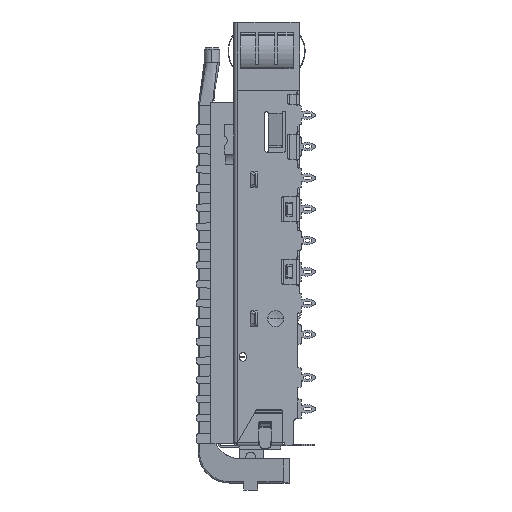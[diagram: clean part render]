
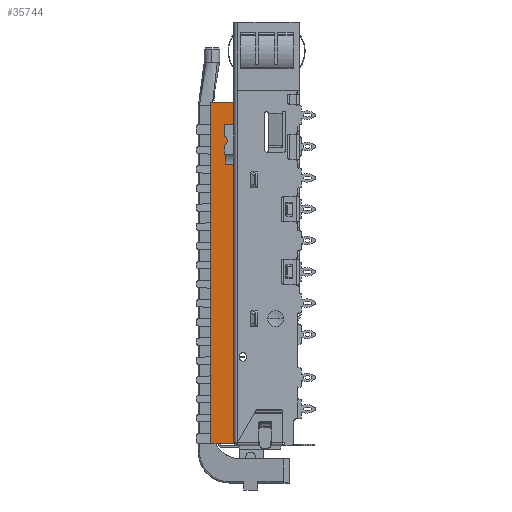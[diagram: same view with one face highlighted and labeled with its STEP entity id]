
A CAD part, left-side view. The second image highlights one B-rep face of the part: STEP entity #35744.
In plain terms, the highlighted planar face has unit normal (-1, 0, 0).
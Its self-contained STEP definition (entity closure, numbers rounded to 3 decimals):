
#1224 = CARTESIAN_POINT ( 'NONE',  ( -9.225, 1.45, -19.328 ) ) ;
#4193 = VERTEX_POINT ( 'NONE', #22366 ) ;
#4428 = CARTESIAN_POINT ( 'NONE',  ( -9.225, -0.01, 30.211 ) ) ;
#5185 = CIRCLE ( 'NONE', #13359, 0.3 ) ;
#5334 = EDGE_CURVE ( 'NONE', #57013, #68491, #49041, .T. ) ;
#7512 = VECTOR ( 'NONE', #25607, 1000. ) ;
#8027 = CARTESIAN_POINT ( 'NONE',  ( -9.225, -0.01, -60.415 ) ) ;
#8624 = VERTEX_POINT ( 'NONE', #70072 ) ;
#8716 = CARTESIAN_POINT ( 'NONE',  ( -9.225, 0., -20.48 ) ) ;
#9135 = EDGE_CURVE ( 'NONE', #57013, #24176, #24763, .T. ) ;
#10330 = CIRCLE ( 'NONE', #37205, 0.3 ) ;
#11804 = ORIENTED_EDGE ( 'NONE', *, *, #21976, .F. ) ;
#13359 = AXIS2_PLACEMENT_3D ( 'NONE', #57766, #79609, #86204 ) ;
#13598 = EDGE_CURVE ( 'NONE', #24242, #4193, #44075, .T. ) ;
#14418 = ORIENTED_EDGE ( 'NONE', *, *, #9135, .F. ) ;
#14516 = DIRECTION ( 'NONE',  ( 0., -1., 0. ) ) ;
#14604 = LINE ( 'NONE', #70283, #31474 ) ;
#15499 = LINE ( 'NONE', #79662, #27886 ) ;
#16570 = CARTESIAN_POINT ( 'NONE',  ( -9.225, -1.1, -20.48 ) ) ;
#16699 = PLANE ( 'NONE',  #83464 ) ;
#16969 = EDGE_CURVE ( 'NONE', #27422, #78319, #15499, .T. ) ;
#16983 = ORIENTED_EDGE ( 'NONE', *, *, #66647, .F. ) ;
#17281 = EDGE_CURVE ( 'NONE', #84271, #24242, #84892, .T. ) ;
#18973 = DIRECTION ( 'NONE',  ( 0., 0., -1. ) ) ;
#21360 = EDGE_CURVE ( 'NONE', #8624, #52351, #14604, .T. ) ;
#21976 = EDGE_CURVE ( 'NONE', #24176, #31274, #38527, .T. ) ;
#22366 = CARTESIAN_POINT ( 'NONE',  ( -9.225, 3.311, -11.505 ) ) ;
#24176 = VERTEX_POINT ( 'NONE', #87079 ) ;
#24242 = VERTEX_POINT ( 'NONE', #65787 ) ;
#24431 = VECTOR ( 'NONE', #61529, 1000. ) ;
#24763 = LINE ( 'NONE', #25440, #82982 ) ;
#24834 = CARTESIAN_POINT ( 'NONE',  ( -9.225, 1.15, -60.6 ) ) ;
#25440 = CARTESIAN_POINT ( 'NONE',  ( -9.225, -1.1, -14.75 ) ) ;
#25473 = ORIENTED_EDGE ( 'NONE', *, *, #68508, .F. ) ;
#25607 = DIRECTION ( 'NONE',  ( 0., 0., -1. ) ) ;
#27014 = CARTESIAN_POINT ( 'NONE',  ( -9.225, 1.15, -20.272 ) ) ;
#27422 = VERTEX_POINT ( 'NONE', #57801 ) ;
#27886 = VECTOR ( 'NONE', #14516, 1000. ) ;
#31021 = VERTEX_POINT ( 'NONE', #36768 ) ;
#31274 = VERTEX_POINT ( 'NONE', #47052 ) ;
#31474 = VECTOR ( 'NONE', #76834, 1000. ) ;
#32365 = DIRECTION ( 'NONE',  ( 0., 0., -1. ) ) ;
#35348 = ORIENTED_EDGE ( 'NONE', *, *, #21360, .F. ) ;
#35744 = ADVANCED_FACE ( 'NONE', ( #88792, #62056 ), #16699, .F. ) ;
#36265 = VECTOR ( 'NONE', #92761, 1000. ) ;
#36768 = CARTESIAN_POINT ( 'NONE',  ( -9.225, -0.25, -60.415 ) ) ;
#37205 = AXIS2_PLACEMENT_3D ( 'NONE', #1224, #45428, #66674 ) ;
#38380 = VERTEX_POINT ( 'NONE', #81651 ) ;
#38527 = LINE ( 'NONE', #56730, #36265 ) ;
#38848 = DIRECTION ( 'NONE',  ( 0., -1., 0. ) ) ;
#38955 = ORIENTED_EDGE ( 'NONE', *, *, #46942, .F. ) ;
#39568 = VECTOR ( 'NONE', #61912, 1000. ) ;
#39596 = CARTESIAN_POINT ( 'NONE',  ( -9.225, 1.15, -19.328 ) ) ;
#40087 = EDGE_CURVE ( 'NONE', #4193, #27422, #81335, .T. ) ;
#40463 = EDGE_CURVE ( 'NONE', #68491, #38380, #88030, .T. ) ;
#40565 = ORIENTED_EDGE ( 'NONE', *, *, #50573, .T. ) ;
#43601 = ORIENTED_EDGE ( 'NONE', *, *, #90214, .F. ) ;
#44075 = LINE ( 'NONE', #75932, #39568 ) ;
#45302 = VECTOR ( 'NONE', #38848, 1000. ) ;
#45428 = DIRECTION ( 'NONE',  ( 1., 0., 0. ) ) ;
#46625 = LINE ( 'NONE', #24834, #90285 ) ;
#46942 = EDGE_CURVE ( 'NONE', #31274, #8624, #52688, .T. ) ;
#47052 = CARTESIAN_POINT ( 'NONE',  ( -9.225, 1.4, -16.355 ) ) ;
#49041 = LINE ( 'NONE', #74426, #7512 ) ;
#50133 = VERTEX_POINT ( 'NONE', #27014 ) ;
#50573 = EDGE_CURVE ( 'NONE', #78319, #31021, #52603, .T. ) ;
#52351 = VERTEX_POINT ( 'NONE', #63319 ) ;
#52501 = CARTESIAN_POINT ( 'NONE',  ( -9.225, -1.1, -60.6 ) ) ;
#52603 = LINE ( 'NONE', #53558, #56980 ) ;
#52688 = CIRCLE ( 'NONE', #75145, 0.765 ) ;
#52799 = DIRECTION ( 'NONE',  ( 0., 0., -1. ) ) ;
#53558 = CARTESIAN_POINT ( 'NONE',  ( -9.225, -0.25, -11.505 ) ) ;
#53772 = ORIENTED_EDGE ( 'NONE', *, *, #17281, .T. ) ;
#54869 = DIRECTION ( 'NONE',  ( 0., 1., 0. ) ) ;
#56569 = EDGE_LOOP ( 'NONE', ( #65596, #53772, #63976, #58061, #58827, #40565 ) ) ;
#56730 = CARTESIAN_POINT ( 'NONE',  ( -9.225, 1.4, -60.6 ) ) ;
#56980 = VECTOR ( 'NONE', #75714, 1000. ) ;
#57013 = VERTEX_POINT ( 'NONE', #77991 ) ;
#57766 = CARTESIAN_POINT ( 'NONE',  ( -9.225, 1.45, -20.272 ) ) ;
#57801 = CARTESIAN_POINT ( 'NONE',  ( -9.225, 3.311, -60.6 ) ) ;
#58061 = ORIENTED_EDGE ( 'NONE', *, *, #40087, .T. ) ;
#58772 = LINE ( 'NONE', #66021, #45302 ) ;
#58827 = ORIENTED_EDGE ( 'NONE', *, *, #16969, .T. ) ;
#61529 = DIRECTION ( 'NONE',  ( 0., 0., 1. ) ) ;
#61912 = DIRECTION ( 'NONE',  ( 0., 1., 0. ) ) ;
#62056 = FACE_OUTER_BOUND ( 'NONE', #56569, .T. ) ;
#63319 = CARTESIAN_POINT ( 'NONE',  ( -9.225, 1.4, -19.033 ) ) ;
#63976 = ORIENTED_EDGE ( 'NONE', *, *, #13598, .T. ) ;
#64586 = ORIENTED_EDGE ( 'NONE', *, *, #40463, .T. ) ;
#65596 = ORIENTED_EDGE ( 'NONE', *, *, #81730, .F. ) ;
#65787 = CARTESIAN_POINT ( 'NONE',  ( -9.225, -0.01, -11.505 ) ) ;
#65931 = CARTESIAN_POINT ( 'NONE',  ( -9.225, -0.25, -60.6 ) ) ;
#66021 = CARTESIAN_POINT ( 'NONE',  ( -9.225, -0.5, -60.415 ) ) ;
#66647 = EDGE_CURVE ( 'NONE', #74103, #50133, #46625, .T. ) ;
#66674 = DIRECTION ( 'NONE',  ( 0., 0., -1. ) ) ;
#67022 = DIRECTION ( 'NONE',  ( 0., 1., 0. ) ) ;
#68491 = VERTEX_POINT ( 'NONE', #8716 ) ;
#68508 = EDGE_CURVE ( 'NONE', #52351, #74103, #10330, .T. ) ;
#68612 = DIRECTION ( 'NONE',  ( 0., 0., -1. ) ) ;
#68798 = CARTESIAN_POINT ( 'NONE',  ( -9.225, 3.311, -11.505 ) ) ;
#70072 = CARTESIAN_POINT ( 'NONE',  ( -9.225, 1.4, -17.745 ) ) ;
#70283 = CARTESIAN_POINT ( 'NONE',  ( -9.225, 1.4, -60.6 ) ) ;
#73410 = DIRECTION ( 'NONE',  ( 1., 0., 0. ) ) ;
#74103 = VERTEX_POINT ( 'NONE', #39596 ) ;
#74426 = CARTESIAN_POINT ( 'NONE',  ( -9.225, 0., -60.6 ) ) ;
#74578 = VECTOR ( 'NONE', #18973, 1000. ) ;
#75145 = AXIS2_PLACEMENT_3D ( 'NONE', #89624, #82065, #68612 ) ;
#75714 = DIRECTION ( 'NONE',  ( 0., 0., 1. ) ) ;
#75932 = CARTESIAN_POINT ( 'NONE',  ( -9.225, 3.311, -11.505 ) ) ;
#76834 = DIRECTION ( 'NONE',  ( 0., 0., -1. ) ) ;
#77897 = VECTOR ( 'NONE', #67022, 1000. ) ;
#77991 = CARTESIAN_POINT ( 'NONE',  ( -9.225, 0., -14.75 ) ) ;
#78319 = VERTEX_POINT ( 'NONE', #65931 ) ;
#79609 = DIRECTION ( 'NONE',  ( 1., 0., 0. ) ) ;
#79662 = CARTESIAN_POINT ( 'NONE',  ( -9.225, 3.311, -60.6 ) ) ;
#80884 = ORIENTED_EDGE ( 'NONE', *, *, #5334, .T. ) ;
#81335 = LINE ( 'NONE', #68798, #74578 ) ;
#81651 = CARTESIAN_POINT ( 'NONE',  ( -9.225, 1.234, -20.48 ) ) ;
#81730 = EDGE_CURVE ( 'NONE', #84271, #31021, #58772, .T. ) ;
#82065 = DIRECTION ( 'NONE',  ( 1., 0., 0. ) ) ;
#82982 = VECTOR ( 'NONE', #54869, 1000. ) ;
#83464 = AXIS2_PLACEMENT_3D ( 'NONE', #52501, #73410, #52799 ) ;
#84271 = VERTEX_POINT ( 'NONE', #8027 ) ;
#84892 = LINE ( 'NONE', #4428, #24431 ) ;
#86204 = DIRECTION ( 'NONE',  ( 0., 0., -1. ) ) ;
#87079 = CARTESIAN_POINT ( 'NONE',  ( -9.225, 1.4, -14.75 ) ) ;
#88030 = LINE ( 'NONE', #16570, #77897 ) ;
#88792 = FACE_BOUND ( 'NONE', #90688, .T. ) ;
#89624 = CARTESIAN_POINT ( 'NONE',  ( -9.225, 1.72, -17.05 ) ) ;
#90214 = EDGE_CURVE ( 'NONE', #50133, #38380, #5185, .T. ) ;
#90285 = VECTOR ( 'NONE', #32365, 1000. ) ;
#90688 = EDGE_LOOP ( 'NONE', ( #80884, #64586, #43601, #16983, #25473, #35348, #38955, #11804, #14418 ) ) ;
#92761 = DIRECTION ( 'NONE',  ( 0., 0., -1. ) ) ;
